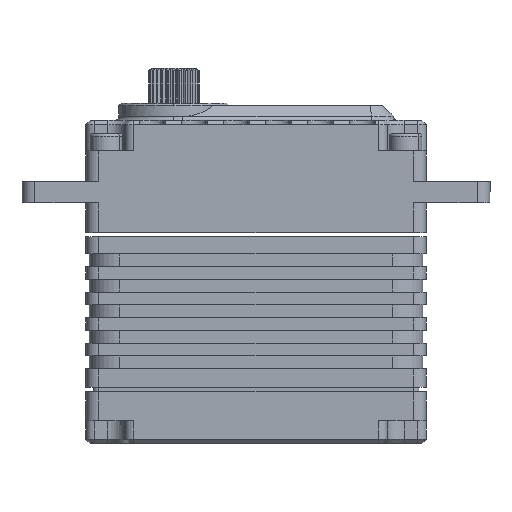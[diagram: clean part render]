
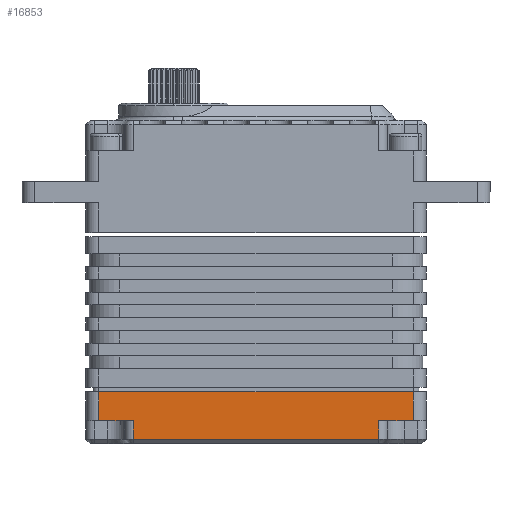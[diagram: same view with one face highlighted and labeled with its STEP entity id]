
A CAD part, front view. The second image highlights one B-rep face of the part: STEP entity #16853.
In plain terms, the highlighted planar face has unit normal (0, -1, 0).
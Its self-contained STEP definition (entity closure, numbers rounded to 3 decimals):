
#26 = EDGE_LOOP ( 'NONE', ( #1783, #26658, #12855, #8837, #24272, #254, #7598, #1825 ) ) ;
#254 = ORIENTED_EDGE ( 'NONE', *, *, #17575, .T. ) ;
#492 = LINE ( 'NONE', #16549, #21600 ) ;
#600 = VECTOR ( 'NONE', #1623, 1000. ) ;
#1623 = DIRECTION ( 'NONE',  ( 0., 0., 1. ) ) ;
#1783 = ORIENTED_EDGE ( 'NONE', *, *, #4565, .T. ) ;
#1825 = ORIENTED_EDGE ( 'NONE', *, *, #16484, .T. ) ;
#2242 = AXIS2_PLACEMENT_3D ( 'NONE', #14339, #20465, #26717 ) ;
#2983 = EDGE_CURVE ( 'NONE', #12193, #24721, #4833, .T. ) ;
#4143 = CARTESIAN_POINT ( 'NONE',  ( -39.643, -10.938, -26.187 ) ) ;
#4485 = LINE ( 'NONE', #16337, #26240 ) ;
#4565 = EDGE_CURVE ( 'NONE', #14895, #21270, #14901, .T. ) ;
#4833 = LINE ( 'NONE', #13523, #7126 ) ;
#4877 = VERTEX_POINT ( 'NONE', #4143 ) ;
#5797 = PLANE ( 'NONE',  #2242 ) ;
#6173 = LINE ( 'NONE', #22357, #600 ) ;
#7126 = VECTOR ( 'NONE', #15683, 1000. ) ;
#7598 = ORIENTED_EDGE ( 'NONE', *, *, #2983, .T. ) ;
#7599 = CARTESIAN_POINT ( 'NONE',  ( -39.643, -10.938, -28.387 ) ) ;
#8837 = ORIENTED_EDGE ( 'NONE', *, *, #12625, .T. ) ;
#8929 = CARTESIAN_POINT ( 'NONE',  ( -33.693, -10.938, -22.787 ) ) ;
#9272 = VECTOR ( 'NONE', #15692, 1000. ) ;
#9510 = VERTEX_POINT ( 'NONE', #7599 ) ;
#10228 = CARTESIAN_POINT ( 'NONE',  ( -68.443, -10.938, -28.387 ) ) ;
#11376 = LINE ( 'NONE', #8929, #21965 ) ;
#12193 = VERTEX_POINT ( 'NONE', #15368 ) ;
#12431 = VERTEX_POINT ( 'NONE', #13760 ) ;
#12437 = DIRECTION ( 'NONE',  ( 1., 0., 0. ) ) ;
#12625 = EDGE_CURVE ( 'NONE', #13409, #9510, #492, .T. ) ;
#12855 = ORIENTED_EDGE ( 'NONE', *, *, #24341, .T. ) ;
#13409 = VERTEX_POINT ( 'NONE', #10228 ) ;
#13523 = CARTESIAN_POINT ( 'NONE',  ( -35.543, -10.938, -28.822 ) ) ;
#13760 = CARTESIAN_POINT ( 'NONE',  ( -68.443, -10.938, -26.187 ) ) ;
#14017 = CARTESIAN_POINT ( 'NONE',  ( -72.543, -10.938, -22.787 ) ) ;
#14106 = DIRECTION ( 'NONE',  ( 0., 0., -1. ) ) ;
#14339 = CARTESIAN_POINT ( 'NONE',  ( -33.693, -10.938, -28.822 ) ) ;
#14678 = LINE ( 'NONE', #23830, #19653 ) ;
#14895 = VERTEX_POINT ( 'NONE', #14017 ) ;
#14901 = LINE ( 'NONE', #24171, #9272 ) ;
#15368 = CARTESIAN_POINT ( 'NONE',  ( -35.543, -10.938, -26.187 ) ) ;
#15683 = DIRECTION ( 'NONE',  ( 0., 0., 1. ) ) ;
#15692 = DIRECTION ( 'NONE',  ( 0., 0., -1. ) ) ;
#15784 = LINE ( 'NONE', #16628, #22714 ) ;
#16337 = CARTESIAN_POINT ( 'NONE',  ( -68.443, -10.938, -28.822 ) ) ;
#16484 = EDGE_CURVE ( 'NONE', #24721, #14895, #11376, .T. ) ;
#16549 = CARTESIAN_POINT ( 'NONE',  ( -75.713, -10.938, -28.387 ) ) ;
#16628 = CARTESIAN_POINT ( 'NONE',  ( -33.693, -10.938, -26.187 ) ) ;
#16853 = ADVANCED_FACE ( 'NONE', ( #23266 ), #5797, .T. ) ;
#17575 = EDGE_CURVE ( 'NONE', #4877, #12193, #14678, .T. ) ;
#19645 = DIRECTION ( 'NONE',  ( -1., 0., 0. ) ) ;
#19653 = VECTOR ( 'NONE', #21520, 1000. ) ;
#19983 = EDGE_CURVE ( 'NONE', #9510, #4877, #6173, .T. ) ;
#20465 = DIRECTION ( 'NONE',  ( 0., -1., 0. ) ) ;
#21270 = VERTEX_POINT ( 'NONE', #23372 ) ;
#21520 = DIRECTION ( 'NONE',  ( 1., 0., 0. ) ) ;
#21600 = VECTOR ( 'NONE', #27208, 1000. ) ;
#21785 = EDGE_CURVE ( 'NONE', #21270, #12431, #15784, .T. ) ;
#21965 = VECTOR ( 'NONE', #19645, 1000. ) ;
#22028 = CARTESIAN_POINT ( 'NONE',  ( -35.543, -10.938, -22.787 ) ) ;
#22357 = CARTESIAN_POINT ( 'NONE',  ( -39.643, -10.938, -28.822 ) ) ;
#22714 = VECTOR ( 'NONE', #12437, 1000. ) ;
#23266 = FACE_OUTER_BOUND ( 'NONE', #26, .T. ) ;
#23372 = CARTESIAN_POINT ( 'NONE',  ( -72.543, -10.938, -26.187 ) ) ;
#23830 = CARTESIAN_POINT ( 'NONE',  ( -33.693, -10.938, -26.187 ) ) ;
#24171 = CARTESIAN_POINT ( 'NONE',  ( -72.543, -10.938, -28.822 ) ) ;
#24272 = ORIENTED_EDGE ( 'NONE', *, *, #19983, .T. ) ;
#24341 = EDGE_CURVE ( 'NONE', #12431, #13409, #4485, .T. ) ;
#24721 = VERTEX_POINT ( 'NONE', #22028 ) ;
#26240 = VECTOR ( 'NONE', #14106, 1000. ) ;
#26658 = ORIENTED_EDGE ( 'NONE', *, *, #21785, .T. ) ;
#26717 = DIRECTION ( 'NONE',  ( 0., 0., -1. ) ) ;
#27208 = DIRECTION ( 'NONE',  ( 1., 0., 0. ) ) ;
